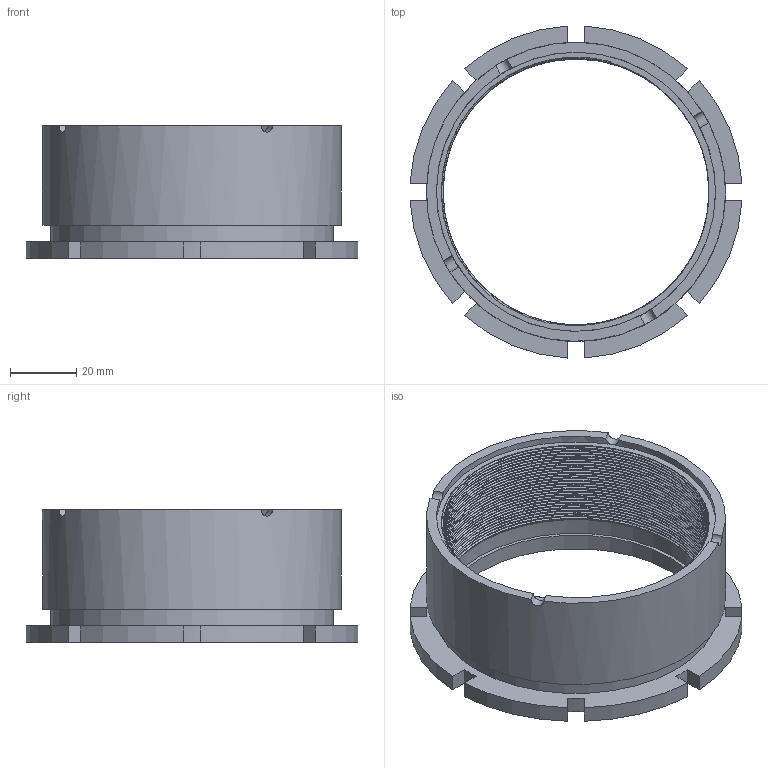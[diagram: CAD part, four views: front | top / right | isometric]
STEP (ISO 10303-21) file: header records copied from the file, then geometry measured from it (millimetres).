
FILE_DESCRIPTION(/* description */ ('CAx-IF Rec.Pracs.---Representation and Presentation of Product Manufacturing Information (PMI)---4.0---2014-10-13','CAx-IF Rec.Pracs.---3D Tessellated Geometry---0.4---2014-09-14','2;1'),/* implementation_level */ '2;1');
FILE_NAME(/* name */ 'czesc_gwintowana_wyciecia',/* time_stamp */ '2020-03-20T18:04:14+01:00',/* author */ (''),/* organization */ (''),/* preprocessor_version */ 'ST-DEVELOPER v16.7',/* originating_system */ 'SIEMENS PLM Software NX 1847',/* authorisation */ $);
FILE_SCHEMA (('AP242_MANAGED_MODEL_BASED_3D_ENGINEERING_MIM_LF { 1 0 10303 442 1 1 4 }'));
Length unit declared in the file: millimetre
Products named in the file (1): czesc_gwintowana_wyciecia
Bounding box: 99.87 x 99.87 x 40 mm (x, y, z)
Volume: 50785.1 mm3; surface area: 32886.8 mm2
Topology: 1 solids, 1 shells, 59 faces, 156 edges, 104 vertices
Faces by surface type: cylinder 30, plane 25, cone 2, bspline 2
Full cylindrical faces by diameter (mm): 80 x1, 82 x1, 85 x1, 90 x1
Entity records: 7905 total; most frequent: CARTESIAN_POINT 6365, DIRECTION 312, ORIENTED_EDGE 294, EDGE_CURVE 147, AXIS2_PLACEMENT_3D 128, VERTEX_POINT 99, LINE 72, VECTOR 72
